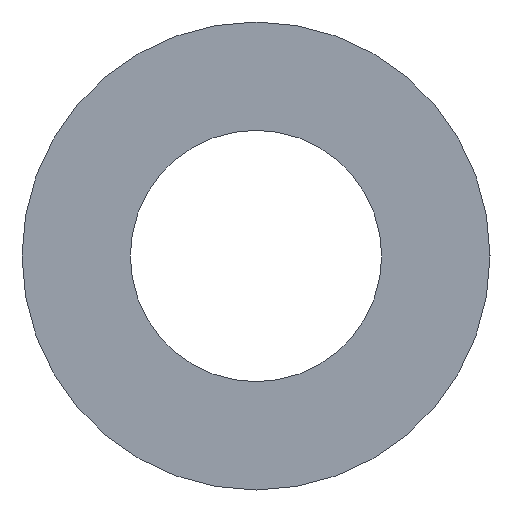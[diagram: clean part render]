
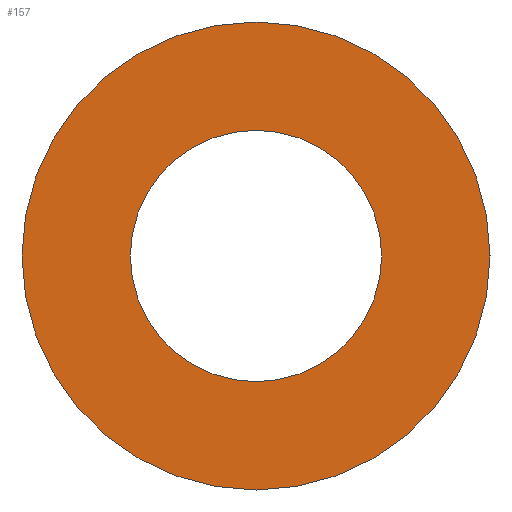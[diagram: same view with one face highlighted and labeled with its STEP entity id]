
A CAD part, left-side view. The second image highlights one B-rep face of the part: STEP entity #157.
In plain terms, the highlighted planar face has unit normal (-1, 0, 0).
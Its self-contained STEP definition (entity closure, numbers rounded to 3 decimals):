
#5 = CARTESIAN_POINT ( 'NONE',  ( -7.1, 2.7, 0. ) ) ;
#12 = EDGE_LOOP ( 'NONE', ( #433, #275 ) ) ;
#21 = EDGE_CURVE ( 'NONE', #435, #280, #615, .T. ) ;
#36 = VERTEX_POINT ( 'NONE', #86 ) ;
#44 = DIRECTION ( 'NONE',  ( 0., 0., 1. ) ) ;
#61 = EDGE_LOOP ( 'NONE', ( #115, #428 ) ) ;
#86 = CARTESIAN_POINT ( 'NONE',  ( -7.1, 0., -2.7 ) ) ;
#115 = ORIENTED_EDGE ( 'NONE', *, *, #330, .F. ) ;
#130 = DIRECTION ( 'NONE',  ( 0., 0., -1. ) ) ;
#133 = DIRECTION ( 'NONE',  ( 0., 1., 0. ) ) ;
#143 = DIRECTION ( 'NONE',  ( 1., 0., 0. ) ) ;
#157 = ADVANCED_FACE ( 'NONE', ( #268, #682 ), #477, .T. ) ;
#168 = VERTEX_POINT ( 'NONE', #316 ) ;
#196 = CARTESIAN_POINT ( 'NONE',  ( -7.1, 0., 0. ) ) ;
#205 = AXIS2_PLACEMENT_3D ( 'NONE', #5, #212, #44 ) ;
#212 = DIRECTION ( 'NONE',  ( -1., 0., 0. ) ) ;
#241 = CARTESIAN_POINT ( 'NONE',  ( -7.1, 0., 0. ) ) ;
#249 = CARTESIAN_POINT ( 'NONE',  ( -7.1, 0., 0. ) ) ;
#268 = FACE_OUTER_BOUND ( 'NONE', #61, .T. ) ;
#275 = ORIENTED_EDGE ( 'NONE', *, *, #21, .T. ) ;
#280 = VERTEX_POINT ( 'NONE', #345 ) ;
#302 = AXIS2_PLACEMENT_3D ( 'NONE', #668, #143, #130 ) ;
#316 = CARTESIAN_POINT ( 'NONE',  ( -7.1, 0., 2.7 ) ) ;
#324 = EDGE_CURVE ( 'NONE', #280, #435, #472, .T. ) ;
#330 = EDGE_CURVE ( 'NONE', #36, #168, #445, .T. ) ;
#345 = CARTESIAN_POINT ( 'NONE',  ( -7.1, 0., -1.45 ) ) ;
#348 = EDGE_CURVE ( 'NONE', #168, #36, #573, .T. ) ;
#363 = CARTESIAN_POINT ( 'NONE',  ( -7.1, 0., 1.45 ) ) ;
#394 = DIRECTION ( 'NONE',  ( 1., 0., 0. ) ) ;
#428 = ORIENTED_EDGE ( 'NONE', *, *, #348, .F. ) ;
#433 = ORIENTED_EDGE ( 'NONE', *, *, #324, .T. ) ;
#435 = VERTEX_POINT ( 'NONE', #363 ) ;
#445 = CIRCLE ( 'NONE', #302, 2.7 ) ;
#451 = DIRECTION ( 'NONE',  ( 1., 0., 0. ) ) ;
#472 = CIRCLE ( 'NONE', #663, 1.45 ) ;
#477 = PLANE ( 'NONE',  #205 ) ;
#485 = AXIS2_PLACEMENT_3D ( 'NONE', #249, #394, #616 ) ;
#558 = AXIS2_PLACEMENT_3D ( 'NONE', #196, #674, #607 ) ;
#573 = CIRCLE ( 'NONE', #485, 2.7 ) ;
#607 = DIRECTION ( 'NONE',  ( 0., 1., 0. ) ) ;
#615 = CIRCLE ( 'NONE', #558, 1.45 ) ;
#616 = DIRECTION ( 'NONE',  ( 0., 0., -1. ) ) ;
#663 = AXIS2_PLACEMENT_3D ( 'NONE', #241, #451, #133 ) ;
#668 = CARTESIAN_POINT ( 'NONE',  ( -7.1, 0., 0. ) ) ;
#674 = DIRECTION ( 'NONE',  ( 1., 0., 0. ) ) ;
#682 = FACE_BOUND ( 'NONE', #12, .T. ) ;
